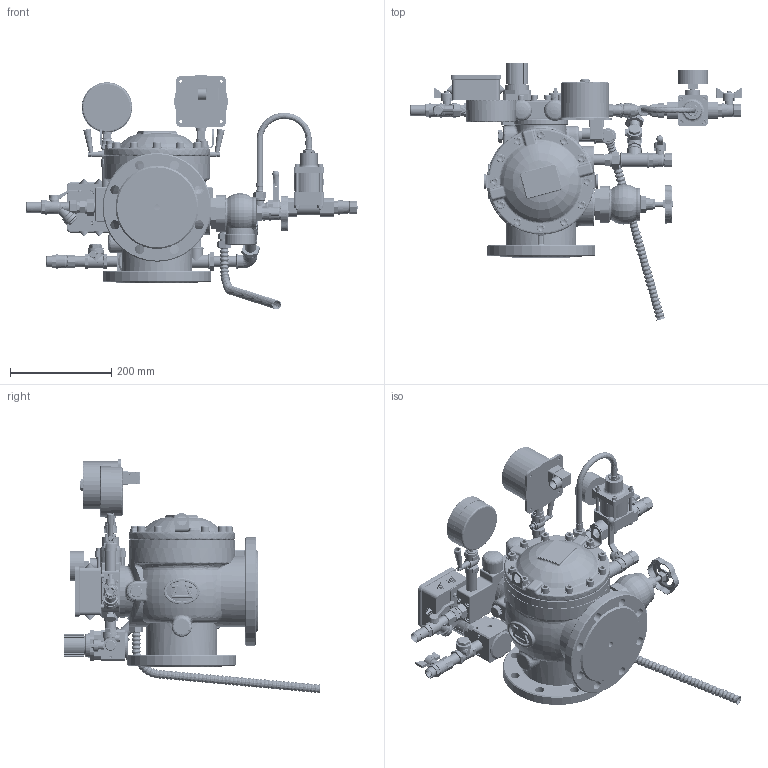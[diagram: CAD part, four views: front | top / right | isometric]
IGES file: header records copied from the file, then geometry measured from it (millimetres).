
Start section: File generated by T-FLEX CAD Version (null)
Global section: file name: 100      .igs; native system: T-FLEX CAD; date: 211014.134500; units: millimetre
Bounding box: 656.65 x 508.21 x 464.21 mm (x, y, z)
Volume: 11580226.8 mm3; surface area: 1748648.4 mm2
Topology: 379 solids, 415 shells, 18563 faces, 45580 edges, 27314 vertices
Faces by surface type: plane 6296, cylinder 5799, revolution 2299, bspline 1962, cone 1391, sphere 816
Full cylindrical faces by diameter (mm): 49 x1
